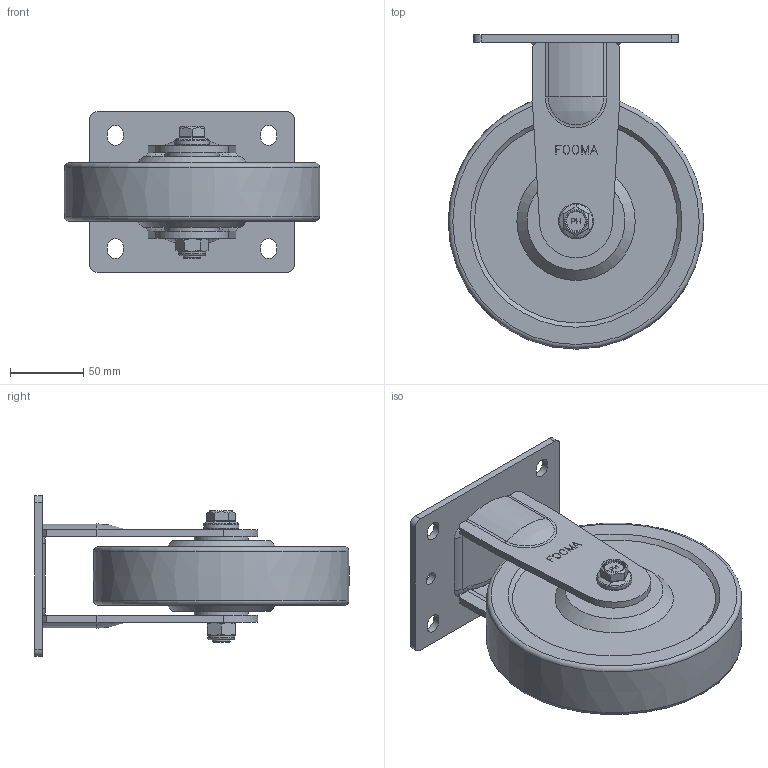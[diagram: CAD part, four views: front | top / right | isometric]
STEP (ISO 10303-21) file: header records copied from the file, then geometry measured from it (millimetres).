
FILE_DESCRIPTION(/* description */ (''),/* implementation_level */ '2;1');
FILE_NAME(/* name */ '\\192.168.10.38\지덕공유\1.기술연구소\2.연구개발 진행중\28.PLM-SERIES_MEDIUM\제품설계\홈페이지용 도면\PLM-175-ARF-MCD-PEU.stp',/* time_stamp */ '2022-03-04T18:02:03+09:00',/* author */ ('admin'),/* organization */ (''),/* preprocessor_version */ 'ST-DEVELOPER v18.1',/* originating_system */ 'Autodesk Inventor 2021',/* authorisation */ '');
FILE_SCHEMA (('AUTOMOTIVE_DESIGN { 1 0 10303 214 3 1 1 }'));
Length unit declared in the file: millimetre
Products named in the file (1): PLM-175-ARF-MCD-PEU
Bounding box: 174.98 x 215 x 110 mm (x, y, z)
Volume: 1090516 mm3; surface area: 136936.4 mm2
Topology: 1 solids, 1 shells, 697 faces, 1926 edges, 1277 vertices
Faces by surface type: plane 584, cylinder 46, bspline 27, torus 23, cone 13, sphere 4
Full cylindrical faces by diameter (mm): 9 x2, 12 x1, 14 x1, 18.5 x1, 24 x1, 37 x2
Entity records: 23045 total; most frequent: CARTESIAN_POINT 5240, ORIENTED_EDGE 3852, DIRECTION 3385, EDGE_CURVE 1926, LINE 1653, VECTOR 1653, VERTEX_POINT 1277, AXIS2_PLACEMENT_3D 866
